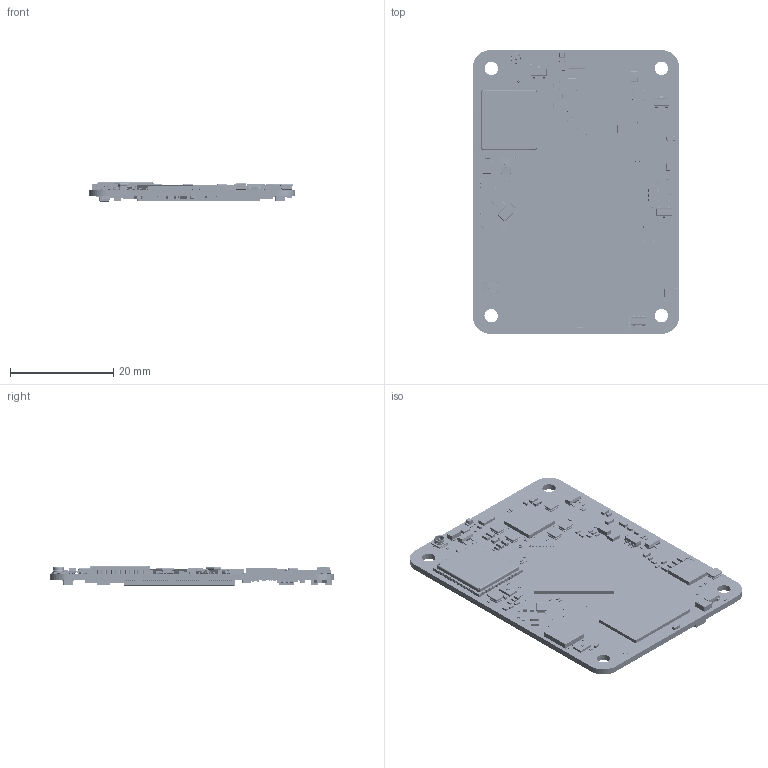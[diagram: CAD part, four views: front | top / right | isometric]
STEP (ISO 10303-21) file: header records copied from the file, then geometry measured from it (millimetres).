
FILE_DESCRIPTION((''),'2;1');
FILE_NAME('CM3_PCBA','2024-03-14T15:17:10',('admin'),(''),'CREO PARAMETRIC BY PTC INC, 2023072','CREO PARAMETRIC BY PTC INC, 2023072','');
FILE_SCHEMA(('CONFIG_CONTROL_DESIGN','SHAPE_APPEARANCE_LAYERS_GROUPS'));
Products named in the file (1): CM3_PCBA
Bounding box: 40.05 x 55.02 x 3.74 mm (x, y, z)
Volume: 3410.4 mm3; surface area: 6282.5 mm2
Topology: 3 solids, 107 shells, 15542 faces, 38465 edges, 22357 vertices
Faces by surface type: plane 7678, cylinder 6031, sphere 1420, torus 291, cone 79, bspline 24, extrusion 19
Entity records: 569403 total; most frequent: CARTESIAN_POINT 84664, DIRECTION 77163, ORIENTED_EDGE 75652, EDGE_CURVE 37826, AXIS2_PLACEMENT_3D 25803, VECTOR 25557, LINE 25538, VERTEX_POINT 22357
